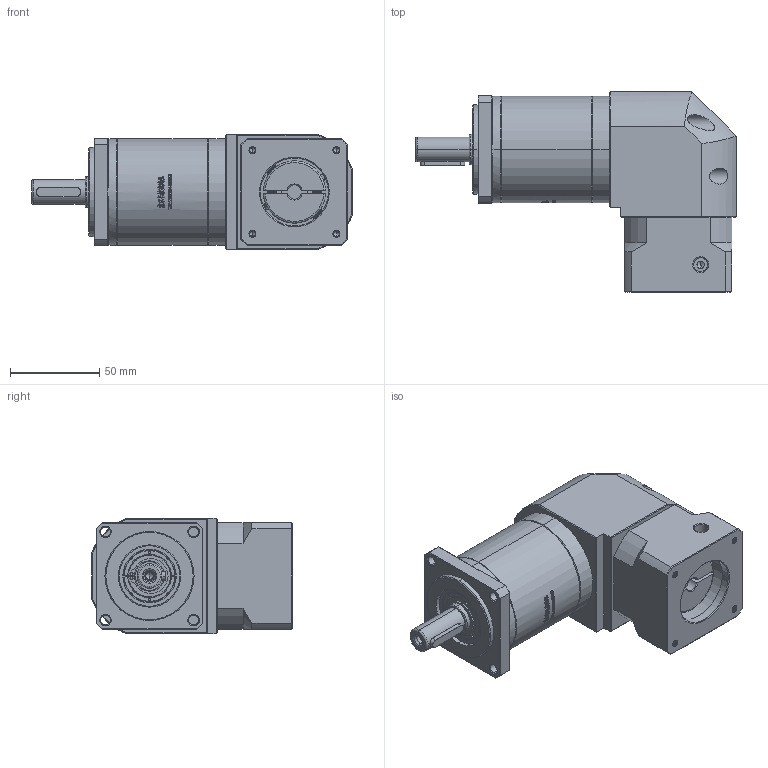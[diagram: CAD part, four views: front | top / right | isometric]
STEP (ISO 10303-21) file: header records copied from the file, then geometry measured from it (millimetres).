
FILE_DESCRIPTION (( 'STEP AP214' ), '1' );
FILE_NAME ('ZFR60-D14-L2-8-38.1-47.14x47.14-M4.STEP', '2022-04-20T08:21:20', ( '' ), ( 'Microsoft' ), 'SwSTEP 2.0', 'SolidWorks 2016', '' );
FILE_SCHEMA (( 'AUTOMOTIVE_DESIGN' ));
Length unit declared in the file: millimetre
Products named in the file (1): ZFR60-D14-L2-8-38.1-47.14x47.14-M4
Bounding box: 180 x 112.7 x 65 mm (x, y, z)
Volume: 591442.6 mm3; surface area: 83306.8 mm2
Topology: 5 solids, 6 shells, 2687 faces, 7326 edges, 4777 vertices
Faces by surface type: plane 1398, bspline 579, cylinder 396, cone 288, torus 26
Entity records: 146817 total; most frequent: CARTESIAN_POINT 54861, ORIENTED_EDGE 14608, DIRECTION 10528, EDGE_CURVE 7304, VERTEX_POINT 4777, LINE 4378, VECTOR 4378, AXIS2_PLACEMENT_3D 3075
